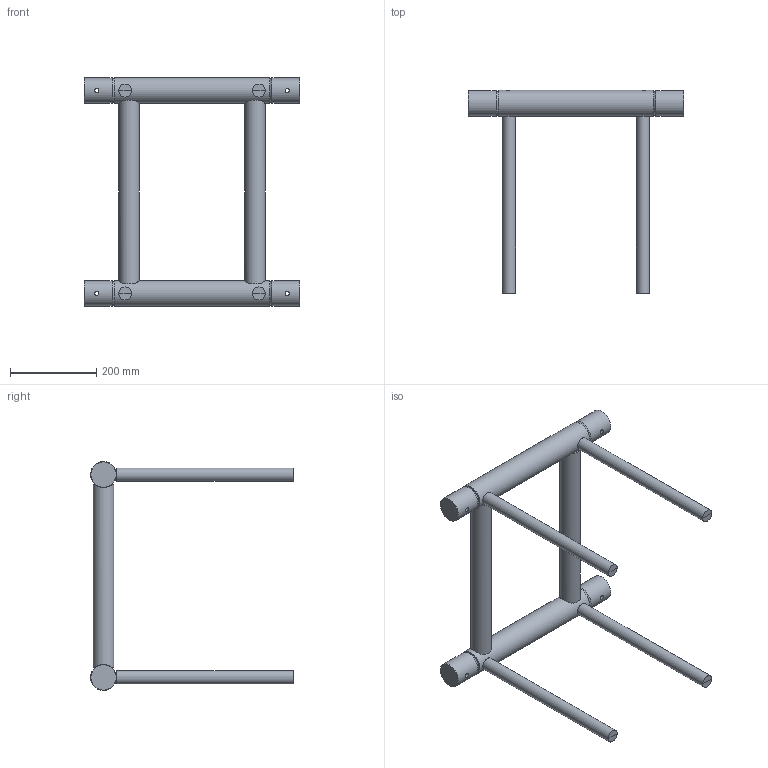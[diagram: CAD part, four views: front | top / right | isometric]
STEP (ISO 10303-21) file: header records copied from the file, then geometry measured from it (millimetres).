
FILE_DESCRIPTION(/* description */ (''),/* implementation_level */ '2;1');
FILE_NAME(/* name */ 'M:\Symbolen_NIEUW\STP\52-er truss\C52T\C52T-L050_111810001.stp',/* time_stamp */ '2017-12-15T15:20:19+01:00',/* author */ ('Kees'),/* organization */ (''),/* preprocessor_version */ 'ST-DEVELOPER v16.13',/* originating_system */ 'Autodesk Inventor 2018',/* authorisation */ '');
FILE_SCHEMA (('AUTOMOTIVE_DESIGN { 1 0 10303 214 3 1 1 }'));
Length unit declared in the file: millimetre
Products named in the file (1): 260001218
Bounding box: 500 x 470 x 529.88 mm (x, y, z)
Volume: 5451285.1 mm3; surface area: 503739.7 mm2
Topology: 12 solids, 12 shells, 116 faces, 236 edges, 144 vertices
Faces by surface type: plane 52, cylinder 44, cone 20
Full cylindrical faces by diameter (mm): 10 x4, 30 x4, 48.3 x2, 58.8 x4, 60 x2
Entity records: 3957 total; most frequent: CARTESIAN_POINT 1489, DIRECTION 466, ORIENTED_EDGE 448, EDGE_CURVE 224, AXIS2_PLACEMENT_3D 193, EDGE_LOOP 152, VERTEX_POINT 152, STYLED_ITEM 105
